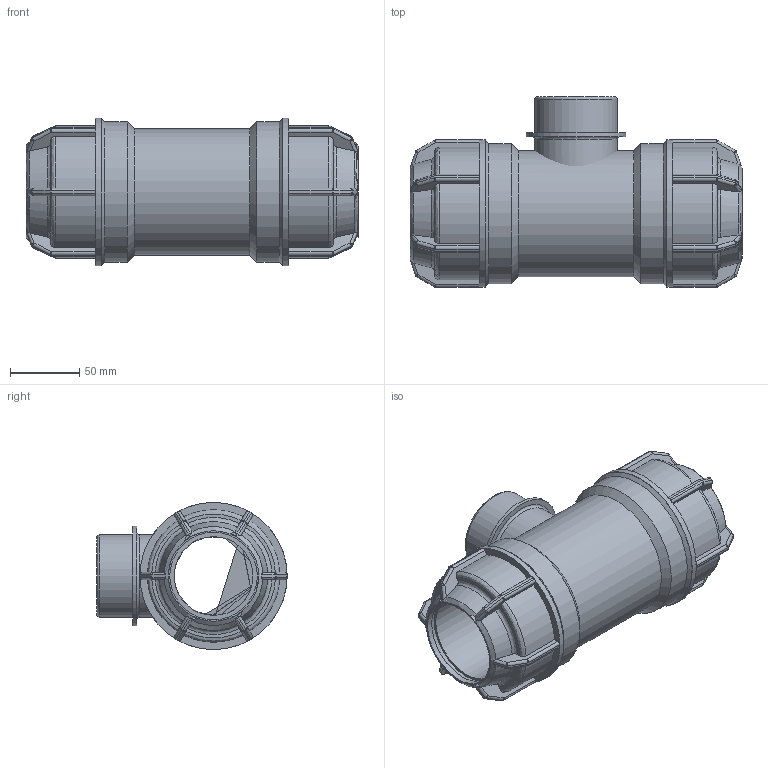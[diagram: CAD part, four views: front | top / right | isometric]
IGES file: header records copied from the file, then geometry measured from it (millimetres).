
Global section: file name: 148400063020.ipt; native system: Autodesk Inventor 2015; preprocessor: unknown; author: KIM; date: 20180409.131238; units: millimetre
Bounding box: 239 x 137 x 106 mm (x, y, z)
Volume: 888976.7 mm3; surface area: 157482.9 mm2
Topology: 2 solids, 2 shells, 412 faces, 992 edges, 580 vertices
Faces by surface type: plane 194, cylinder 116, sphere 48, revolution 38, cone 16
Full cylindrical faces by diameter (mm): 59.614 x2, 71.537 x1, 90.72 x1, 100.8 x2, 106 x2
